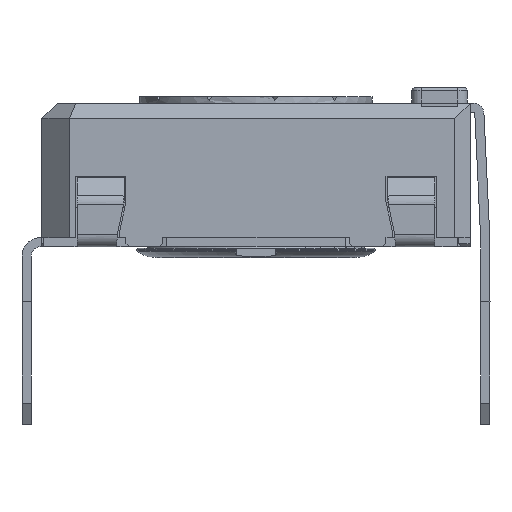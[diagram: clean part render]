
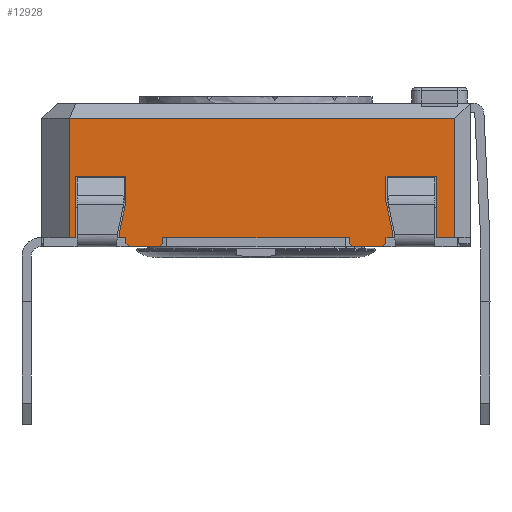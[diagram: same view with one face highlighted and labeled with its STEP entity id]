
A CAD part, left-side view. The second image highlights one B-rep face of the part: STEP entity #12928.
In plain terms, the highlighted planar face has unit normal (-1, 0, 0).
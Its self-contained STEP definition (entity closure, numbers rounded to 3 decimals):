
#1011=FACE_OUTER_BOUND('',#1699,.T.);
#1699=EDGE_LOOP('',(#10297,#10298,#10299,#10300,#10301,#10302,#10303,#10304,
#10305,#10306,#10307,#10308,#10309,#10310,#10311,#10312,#10313,#10314,#10315,
#10316,#10317,#10318,#10319,#10320,#10321,#10322,#10323,#10324));
#2693=LINE('',#19724,#4181);
#2699=LINE('',#19736,#4187);
#2702=LINE('',#19743,#4190);
#2707=LINE('',#19752,#4195);
#2727=LINE('',#19793,#4215);
#2741=LINE('',#19819,#4229);
#2745=LINE('',#19826,#4233);
#2760=LINE('',#19855,#4248);
#2763=LINE('',#19861,#4251);
#2768=LINE('',#19871,#4256);
#2771=LINE('',#19877,#4259);
#2774=LINE('',#19883,#4262);
#2792=LINE('',#19918,#4280);
#2804=LINE('',#19940,#4292);
#2807=LINE('',#19946,#4295);
#2844=LINE('',#20080,#4332);
#2852=LINE('',#20094,#4340);
#2861=LINE('',#20112,#4349);
#2866=LINE('',#20122,#4354);
#2868=LINE('',#20125,#4356);
#2992=LINE('',#20433,#4480);
#2994=LINE('',#20438,#4482);
#2997=LINE('',#20442,#4485);
#2999=LINE('',#20446,#4487);
#3002=LINE('',#20454,#4490);
#3003=LINE('',#20456,#4491);
#3004=LINE('',#20457,#4492);
#3005=LINE('',#20458,#4493);
#4181=VECTOR('',#15851,10.);
#4187=VECTOR('',#15859,10.);
#4190=VECTOR('',#15864,10.);
#4195=VECTOR('',#15871,10.);
#4215=VECTOR('',#15905,10.);
#4229=VECTOR('',#15919,10.);
#4233=VECTOR('',#15923,10.);
#4248=VECTOR('',#15950,10.);
#4251=VECTOR('',#15955,10.);
#4256=VECTOR('',#15962,10.);
#4259=VECTOR('',#15967,10.);
#4262=VECTOR('',#15972,10.);
#4280=VECTOR('',#15992,10.);
#4292=VECTOR('',#16006,10.);
#4295=VECTOR('',#16011,10.);
#4332=VECTOR('',#16092,10.);
#4340=VECTOR('',#16102,10.);
#4349=VECTOR('',#16113,10.);
#4354=VECTOR('',#16120,10.);
#4356=VECTOR('',#16124,10.);
#4480=VECTOR('',#16416,10.);
#4482=VECTOR('',#16420,10.);
#4485=VECTOR('',#16425,10.);
#4487=VECTOR('',#16431,10.);
#4490=VECTOR('',#16442,10.);
#4491=VECTOR('',#16443,10.);
#4492=VECTOR('',#16444,10.);
#4493=VECTOR('',#16445,10.);
#5571=VERTEX_POINT('',#19721);
#5572=VERTEX_POINT('',#19723);
#5576=VERTEX_POINT('',#19733);
#5578=VERTEX_POINT('',#19739);
#5580=VERTEX_POINT('',#19742);
#5583=VERTEX_POINT('',#19750);
#5608=VERTEX_POINT('',#19816);
#5609=VERTEX_POINT('',#19818);
#5611=VERTEX_POINT('',#19823);
#5612=VERTEX_POINT('',#19825);
#5619=VERTEX_POINT('',#19852);
#5621=VERTEX_POINT('',#19858);
#5625=VERTEX_POINT('',#19868);
#5627=VERTEX_POINT('',#19874);
#5630=VERTEX_POINT('',#19881);
#5646=VERTEX_POINT('',#19916);
#5655=VERTEX_POINT('',#19938);
#5657=VERTEX_POINT('',#19944);
#5684=VERTEX_POINT('',#20078);
#5689=VERTEX_POINT('',#20092);
#5696=VERTEX_POINT('',#20109);
#5700=VERTEX_POINT('',#20119);
#5774=VERTEX_POINT('',#20430);
#5775=VERTEX_POINT('',#20432);
#5776=VERTEX_POINT('',#20436);
#5777=VERTEX_POINT('',#20437);
#5778=VERTEX_POINT('',#20453);
#5779=VERTEX_POINT('',#20455);
#7067=EDGE_CURVE('',#5572,#5571,#2693,.T.);
#7073=EDGE_CURVE('',#5571,#5576,#2699,.T.);
#7076=EDGE_CURVE('',#5580,#5578,#2702,.T.);
#7081=EDGE_CURVE('',#5583,#5578,#2707,.T.);
#7101=EDGE_CURVE('',#5576,#5580,#2727,.T.);
#7115=EDGE_CURVE('',#5609,#5608,#2741,.T.);
#7119=EDGE_CURVE('',#5612,#5611,#2745,.T.);
#7135=EDGE_CURVE('',#5608,#5619,#2760,.T.);
#7138=EDGE_CURVE('',#5619,#5621,#2763,.T.);
#7143=EDGE_CURVE('',#5621,#5625,#2768,.T.);
#7146=EDGE_CURVE('',#5625,#5627,#2771,.T.);
#7149=EDGE_CURVE('',#5627,#5630,#2774,.T.);
#7167=EDGE_CURVE('',#5630,#5646,#2792,.T.);
#7179=EDGE_CURVE('',#5655,#5646,#2804,.T.);
#7182=EDGE_CURVE('',#5657,#5655,#2807,.T.);
#7231=EDGE_CURVE('',#5684,#5657,#2844,.T.);
#7239=EDGE_CURVE('',#5684,#5689,#2852,.T.);
#7248=EDGE_CURVE('',#5689,#5696,#2861,.T.);
#7253=EDGE_CURVE('',#5696,#5700,#2866,.T.);
#7255=EDGE_CURVE('',#5700,#5572,#2868,.T.);
#7395=EDGE_CURVE('',#5774,#5775,#2992,.T.);
#7397=EDGE_CURVE('',#5776,#5777,#2994,.T.);
#7400=EDGE_CURVE('',#5609,#5774,#2997,.T.);
#7402=EDGE_CURVE('',#5611,#5777,#2999,.T.);
#7405=EDGE_CURVE('',#5583,#5778,#3002,.T.);
#7406=EDGE_CURVE('',#5779,#5778,#3003,.T.);
#7407=EDGE_CURVE('',#5612,#5779,#3004,.T.);
#7408=EDGE_CURVE('',#5776,#5775,#3005,.T.);
#10297=ORIENTED_EDGE('',*,*,#7073,.T.);
#10298=ORIENTED_EDGE('',*,*,#7101,.T.);
#10299=ORIENTED_EDGE('',*,*,#7076,.T.);
#10300=ORIENTED_EDGE('',*,*,#7081,.F.);
#10301=ORIENTED_EDGE('',*,*,#7405,.T.);
#10302=ORIENTED_EDGE('',*,*,#7406,.F.);
#10303=ORIENTED_EDGE('',*,*,#7407,.F.);
#10304=ORIENTED_EDGE('',*,*,#7119,.T.);
#10305=ORIENTED_EDGE('',*,*,#7402,.T.);
#10306=ORIENTED_EDGE('',*,*,#7397,.F.);
#10307=ORIENTED_EDGE('',*,*,#7408,.T.);
#10308=ORIENTED_EDGE('',*,*,#7395,.F.);
#10309=ORIENTED_EDGE('',*,*,#7400,.F.);
#10310=ORIENTED_EDGE('',*,*,#7115,.T.);
#10311=ORIENTED_EDGE('',*,*,#7135,.T.);
#10312=ORIENTED_EDGE('',*,*,#7138,.T.);
#10313=ORIENTED_EDGE('',*,*,#7143,.T.);
#10314=ORIENTED_EDGE('',*,*,#7146,.T.);
#10315=ORIENTED_EDGE('',*,*,#7149,.T.);
#10316=ORIENTED_EDGE('',*,*,#7167,.T.);
#10317=ORIENTED_EDGE('',*,*,#7179,.F.);
#10318=ORIENTED_EDGE('',*,*,#7182,.F.);
#10319=ORIENTED_EDGE('',*,*,#7231,.F.);
#10320=ORIENTED_EDGE('',*,*,#7239,.T.);
#10321=ORIENTED_EDGE('',*,*,#7248,.T.);
#10322=ORIENTED_EDGE('',*,*,#7253,.T.);
#10323=ORIENTED_EDGE('',*,*,#7255,.T.);
#10324=ORIENTED_EDGE('',*,*,#7067,.T.);
#12111=PLANE('',#13804);
#12928=ADVANCED_FACE('',(#1011),#12111,.T.);
#13804=AXIS2_PLACEMENT_3D('',#20452,#16440,#16441);
#15851=DIRECTION('',(0.,0.208,-0.978));
#15859=DIRECTION('',(0.,0.,-1.));
#15864=DIRECTION('',(0.,0.,-1.));
#15871=DIRECTION('',(0.,0.707,0.707));
#15905=DIRECTION('',(0.,-1.,0.));
#15919=DIRECTION('',(0.,-1.,0.));
#15923=DIRECTION('',(0.,-1.,0.));
#15950=DIRECTION('',(0.,0.,1.));
#15955=DIRECTION('',(0.,0.208,0.978));
#15962=DIRECTION('',(0.,0.,1.));
#15967=DIRECTION('',(0.,-1.,0.));
#15972=DIRECTION('',(0.,0.,-1.));
#15992=DIRECTION('',(0.,-1.,0.));
#16006=DIRECTION('',(0.,0.,-1.));
#16011=DIRECTION('',(0.,-1.,0.));
#16092=DIRECTION('',(0.,0.,1.));
#16102=DIRECTION('',(0.,-1.,0.));
#16113=DIRECTION('',(0.,0.,1.));
#16120=DIRECTION('',(0.,-1.,0.));
#16124=DIRECTION('',(0.,0.,-1.));
#16416=DIRECTION('',(0.,0.707,-0.707));
#16420=DIRECTION('',(0.,0.707,0.707));
#16425=DIRECTION('',(0.,0.,-1.));
#16431=DIRECTION('',(0.,0.,-1.));
#16440=DIRECTION('center_axis',(-1.,0.,0.));
#16441=DIRECTION('ref_axis',(0.,0.,1.));
#16442=DIRECTION('',(0.,-1.,0.));
#16443=DIRECTION('',(0.,0.707,-0.707));
#16444=DIRECTION('',(0.,0.,-1.));
#16445=DIRECTION('',(0.,-1.,0.));
#19721=CARTESIAN_POINT('',(-14.467,1.552,0.235));
#19723=CARTESIAN_POINT('',(-14.467,1.352,1.176));
#19724=CARTESIAN_POINT('',(-14.467,1.228,1.757));
#19733=CARTESIAN_POINT('',(-14.467,1.552,0.));
#19736=CARTESIAN_POINT('',(-14.467,1.552,0.));
#19739=CARTESIAN_POINT('',(-14.467,1.352,-0.2));
#19742=CARTESIAN_POINT('',(-14.467,1.352,0.));
#19743=CARTESIAN_POINT('',(-14.467,1.352,0.));
#19750=CARTESIAN_POINT('',(-14.467,1.252,-0.3));
#19752=CARTESIAN_POINT('',(-14.467,-1.436,-2.988));
#19793=CARTESIAN_POINT('',(-14.467,4.102,0.));
#19816=CARTESIAN_POINT('',(-14.467,-7.348,0.));
#19818=CARTESIAN_POINT('',(-14.467,-7.148,0.));
#19819=CARTESIAN_POINT('',(-14.467,4.102,0.));
#19823=CARTESIAN_POINT('',(-14.467,-5.948,0.));
#19825=CARTESIAN_POINT('',(-14.467,0.152,0.));
#19826=CARTESIAN_POINT('',(-14.467,4.102,0.));
#19852=CARTESIAN_POINT('',(-14.467,-7.348,0.235));
#19855=CARTESIAN_POINT('',(-14.467,-7.348,0.118));
#19858=CARTESIAN_POINT('',(-14.467,-7.148,1.176));
#19861=CARTESIAN_POINT('',(-14.467,-7.453,-0.254));
#19868=CARTESIAN_POINT('',(-14.467,-7.148,2.));
#19871=CARTESIAN_POINT('',(-14.467,-7.148,0.588));
#19874=CARTESIAN_POINT('',(-14.467,-8.798,2.));
#19877=CARTESIAN_POINT('',(-14.467,-8.523,2.));
#19881=CARTESIAN_POINT('',(-14.467,-8.798,0.));
#19883=CARTESIAN_POINT('',(-14.467,-8.798,0.));
#19916=CARTESIAN_POINT('',(-14.467,-9.398,0.));
#19918=CARTESIAN_POINT('',(-14.467,-9.595,0.));
#19938=CARTESIAN_POINT('',(-14.467,-9.398,3.9));
#19940=CARTESIAN_POINT('',(-14.467,-9.398,0.));
#19944=CARTESIAN_POINT('',(-14.467,3.202,3.9));
#19946=CARTESIAN_POINT('',(-14.467,-6.398,3.9));
#20078=CARTESIAN_POINT('',(-14.467,3.202,0.));
#20080=CARTESIAN_POINT('',(-14.467,3.202,0.));
#20092=CARTESIAN_POINT('',(-14.467,3.002,0.));
#20094=CARTESIAN_POINT('',(-14.467,-2.985,0.));
#20109=CARTESIAN_POINT('',(-14.467,3.002,2.));
#20112=CARTESIAN_POINT('',(-14.467,3.002,0.));
#20119=CARTESIAN_POINT('',(-14.467,1.352,2.));
#20122=CARTESIAN_POINT('',(-14.467,-3.448,2.));
#20125=CARTESIAN_POINT('',(-14.467,1.352,1.));
#20430=CARTESIAN_POINT('',(-14.467,-7.148,-0.2));
#20432=CARTESIAN_POINT('',(-14.467,-7.048,-0.3));
#20433=CARTESIAN_POINT('',(-14.467,-7.861,0.513));
#20436=CARTESIAN_POINT('',(-14.467,-6.048,-0.3));
#20437=CARTESIAN_POINT('',(-14.467,-5.948,-0.2));
#20438=CARTESIAN_POINT('',(-14.467,-6.911,-1.163));
#20442=CARTESIAN_POINT('',(-14.467,-7.148,0.));
#20446=CARTESIAN_POINT('',(-14.467,-5.948,0.));
#20452=CARTESIAN_POINT('Origin',(-14.467,-9.898,0.));
#20453=CARTESIAN_POINT('',(-14.467,0.252,-0.3));
#20454=CARTESIAN_POINT('',(-14.467,0.152,-0.3));
#20455=CARTESIAN_POINT('',(-14.467,0.152,-0.2));
#20456=CARTESIAN_POINT('',(-14.467,-2.386,2.338));
#20457=CARTESIAN_POINT('',(-14.467,0.152,0.));
#20458=CARTESIAN_POINT('',(-14.467,-7.148,-0.3));
